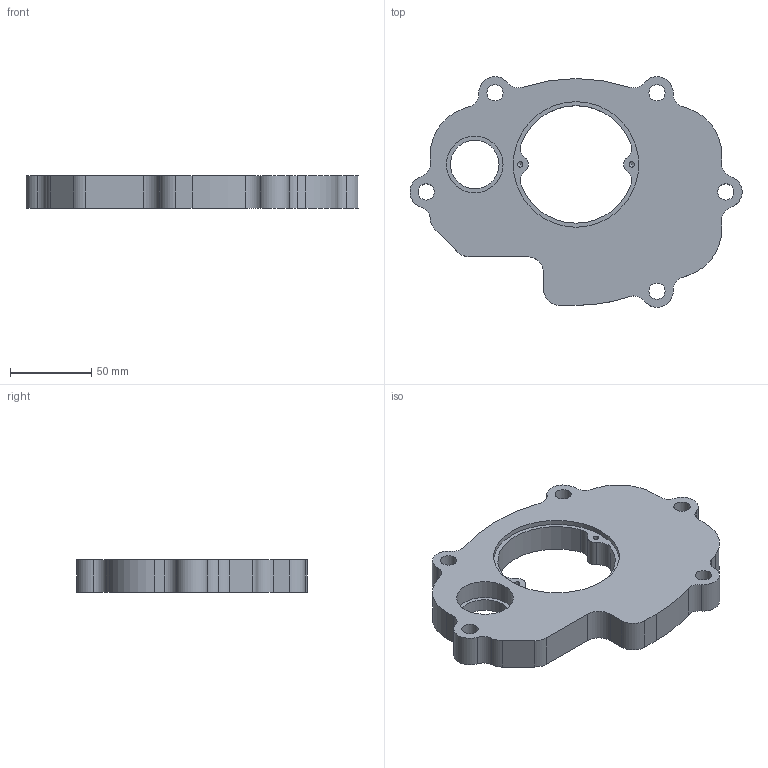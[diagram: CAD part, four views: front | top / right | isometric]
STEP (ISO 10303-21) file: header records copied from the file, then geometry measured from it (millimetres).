
FILE_DESCRIPTION((''),'2;1');
FILE_NAME('C:\Users\User\Desktop\Mastercam-harjoitukset\Mastercam_Mill_8.stp','2020-03-25T14:31:36',(''),(''),'STEP Write','Mastercam 2020 ... CNC Software, Inc.','');
FILE_SCHEMA(('AUTOMOTIVE_DESIGN'));
Length unit declared in the file: millimetre
Products named in the file (1): None
Bounding box: 204.93 x 142.35 x 20 mm (x, y, z)
Volume: 311607.6 mm3; surface area: 53726.3 mm2
Topology: 1 solids, 1 shells, 58 faces, 162 edges, 108 vertices
Faces by surface type: cylinder 42, plane 14, cone 2
Full cylindrical faces by diameter (mm): 3.3 x2, 10 x5, 30 x1, 35 x1, 77.5 x1
Entity records: 1931 total; most frequent: DIRECTION 350, CARTESIAN_POINT 310, ORIENTED_EDGE 292, EDGE_CURVE 146, AXIS2_PLACEMENT_3D 144, VERTEX_POINT 104, EDGE_LOOP 86, CIRCLE 84
